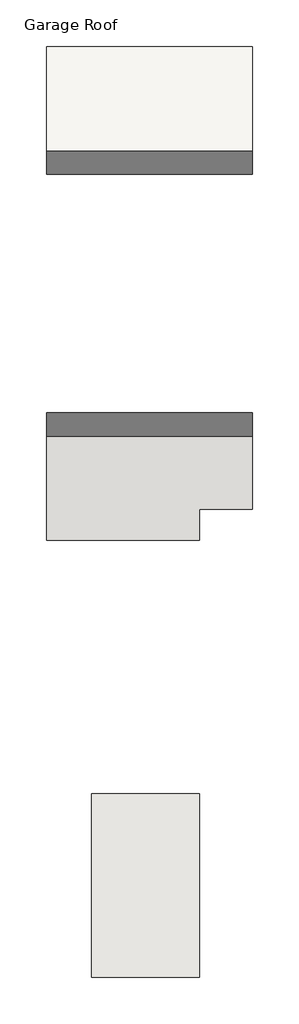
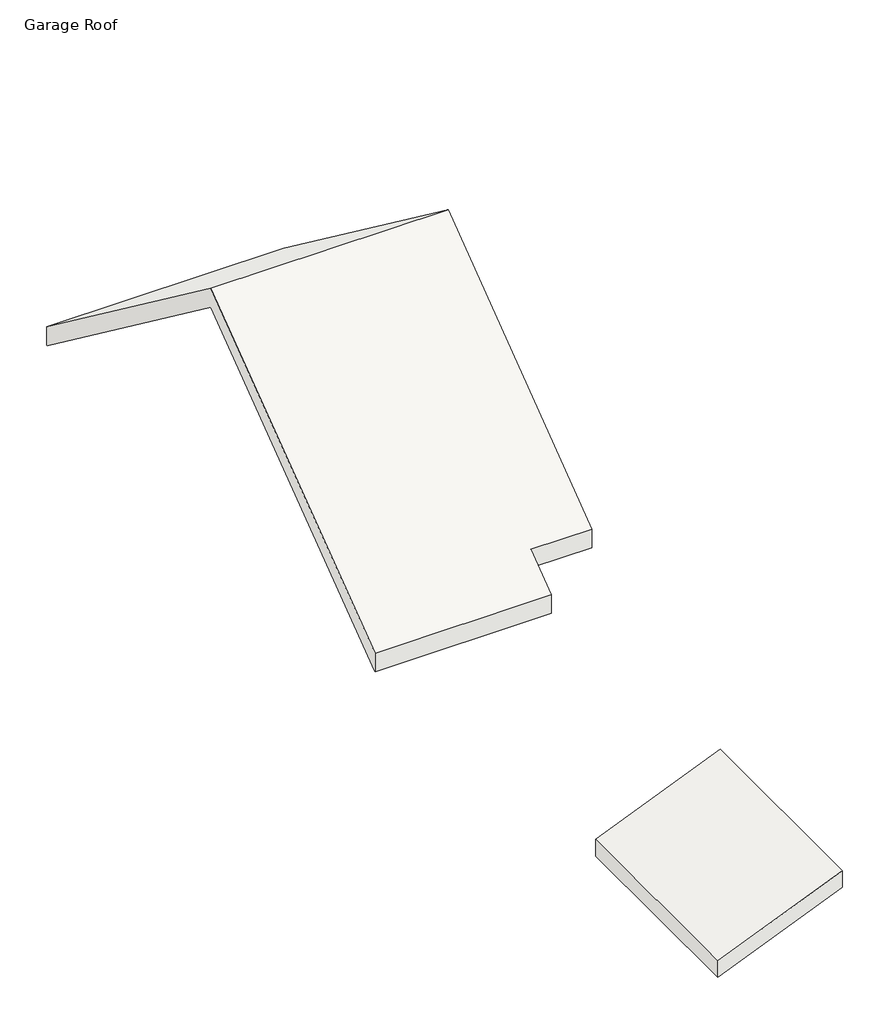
# One storey: 2 roofs.
"""IFC4 building model written with IfcOpenShell, lengths in millimetres."""

import ifcopenshell
import ifcopenshell.guid

model = None  # the IFC model being written
_history = None  # IfcOwnerHistory: only IFC2X3 demands one
_inside = {}  # id of a spatial element -> (the spatial element, [elements in it])
_under = {}  # id of a project, library or spatial element -> (it, [spatial elements below it])
_declared = {}  # id of a project -> (the project, [libraries it declares])
_typed = {}  # id of a type object -> (the type object, [elements of that type])
_made_of = {}  # id of a material, layer set ... -> (it, [elements and type objects made of it])


def new_model(schema):
    """Start an empty IFC model of exactly this schema.

    Asked for "IFC4X3", IfcOpenShell would pick the latest addendum, in which some entities
    have other attributes; the version numbers below select the first issue.
    IFC2X3 requires an IfcOwnerHistory on every rooted entity: one is made here for all.
    """
    global model, _history
    if schema == "IFC4X3":
        model = ifcopenshell.file(schema_version=(4, 3, 0, 0))
    else:
        model = ifcopenshell.file(schema=schema)
    _inside.clear()
    _under.clear()
    _declared.clear()
    _typed.clear()
    _made_of.clear()
    _history = None
    if model.schema == "IFC2X3":
        org = make("IfcOrganization", Name="unknown")
        user = make(
            "IfcPersonAndOrganization",
            ThePerson=make("IfcPerson", FamilyName="unknown"),
            TheOrganization=org,
        )
        app = make(
            "IfcApplication",
            ApplicationDeveloper=org,
            Version="unknown",
            ApplicationFullName="unknown",
            ApplicationIdentifier="unknown",
        )
        _history = make(
            "IfcOwnerHistory",
            OwningUser=user,
            OwningApplication=app,
            ChangeAction="ADDED",
            CreationDate=0,
        )
    return model


def make(cls, **values):
    """One entity of the class cls with the attributes given. An attribute that is None is left unset."""
    return model.create_entity(
        cls, **{name: value for name, value in values.items() if value is not None}
    )


def rooted(cls, **values):
    """An entity with a GlobalId (a new one), such as an element, a storey or a relation."""
    return make(cls, GlobalId=ifcopenshell.guid.new(), OwnerHistory=_history, **values)


def si_unit(unit_type, name, prefix=None):
    """IfcSIUnit, for example si_unit("LENGTHUNIT", "METRE", prefix="MILLI")."""
    return make("IfcSIUnit", UnitType=unit_type, Prefix=prefix, Name=name)


def assignment(units):
    """IfcUnitAssignment: the units of a project."""
    return None if units is None else make("IfcUnitAssignment", Units=units)


def point(xyz):
    """IfcCartesianPoint."""
    return None if xyz is None else make("IfcCartesianPoint", Coordinates=xyz)


def direction(xyz):
    """IfcDirection."""
    return None if xyz is None else make("IfcDirection", DirectionRatios=xyz)


def frame(location, z_axis=None, x_axis=None):
    """IfcAxis2Placement3D, a coordinate frame: its origin and axes. An axis left out is left unset."""
    return make(
        "IfcAxis2Placement3D",
        Location=point(location),
        Axis=direction(z_axis),
        RefDirection=direction(x_axis),
    )


def origin():
    """The frame at (0, 0, 0) with its axes left unset."""
    return frame((0.0, 0.0, 0.0))


def place(relative_to, where):
    """IfcLocalPlacement: puts the frame where relative to a parent placement (None: the world)."""
    return make(
        "IfcLocalPlacement", PlacementRelTo=relative_to, RelativePlacement=where
    )


def context(
    kind, dimensions, precision=None, world=None, true_north=None, identifier=None
):
    """IfcGeometricRepresentationContext, for example the 3D "Model" context."""
    return make(
        "IfcGeometricRepresentationContext",
        ContextIdentifier=identifier,
        ContextType=kind,
        CoordinateSpaceDimension=dimensions,
        Precision=precision,
        WorldCoordinateSystem=world,
        TrueNorth=true_north,
    )


def project(units=None, contexts=None):
    """IfcProject with its units and contexts."""
    return rooted(
        "IfcProject",
        Name="project",
        RepresentationContexts=contexts,
        UnitsInContext=assignment(units),
    )


def spatial(cls, under=None, at=None, **own):
    """A site, building, storey or space (cls), placed at a placement, below another one or the project."""
    s = rooted(cls, ObjectPlacement=at, **own)
    if under is not None:
        _under.setdefault(under.id(), (under, []))[1].append(s)
    return s


def polyline(points):
    """IfcPolyline through the points."""
    return make("IfcPolyline", Points=[point(p) for p in points])


def outline(outer, holes=None, kind="AREA"):
    """IfcArbitraryClosedProfileDef: a profile drawn as a closed curve; with holes, ...WithVoids."""
    if holes is None:
        return make("IfcArbitraryClosedProfileDef", ProfileType=kind, OuterCurve=outer)
    return make(
        "IfcArbitraryProfileDefWithVoids",
        ProfileType=kind,
        OuterCurve=outer,
        InnerCurves=holes,
    )


def extrude(swept, where, along, depth):
    """IfcExtrudedAreaSolid: the profile swept, set in the frame where, extruded along a direction by depth."""
    return make(
        "IfcExtrudedAreaSolid",
        SweptArea=swept,
        Position=where,
        ExtrudedDirection=direction(along),
        Depth=depth,
    )


def faces_of(points, faces, orient=None, outer=None):
    """IfcFace entities. A face is a list of loops; a loop is a list of indices into points, from 0.

    orient and outer hold one flag for each loop. By default every Orientation is true, the
    first loop of a face is its IfcFaceOuterBound and the others are IfcFaceBound.
    """
    made = []
    for i, loops in enumerate(faces):
        bounds = []
        for j, loop in enumerate(loops):
            is_outer = j == 0 if outer is None else outer[i][j]
            bounds.append(
                make(
                    "IfcFaceOuterBound" if is_outer else "IfcFaceBound",
                    Bound=make("IfcPolyLoop", Polygon=[points[k] for k in loop]),
                    Orientation=True if orient is None else orient[i][j],
                )
            )
        made.append(make("IfcFace", Bounds=bounds))
    return made


def faceted_brep(points, faces, orient=None, outer=None, voids=None):
    """IfcFacetedBrep: a solid bounded by flat faces; with voids (closed shells), ...WithVoids."""
    shared = [point(p) for p in points]
    hull = make("IfcClosedShell", CfsFaces=faces_of(shared, faces, orient, outer))
    if voids is None:
        return make("IfcFacetedBrep", Outer=hull)
    return make(
        "IfcFacetedBrepWithVoids",
        Outer=hull,
        Voids=[
            make(cls, CfsFaces=faces_of(shared, fs, o, b)) for cls, fs, o, b in voids
        ],
    )


def shape(context_of_items, identifier, shape_type, items):
    """IfcShapeRepresentation: the items that make up one representation, for example the "Body"."""
    return make(
        "IfcShapeRepresentation",
        ContextOfItems=context_of_items,
        RepresentationIdentifier=identifier,
        RepresentationType=shape_type,
        Items=items,
    )


def made_of(thing, what):
    """Note that an element or type object is made of a material, layer set ...; save() writes the relation."""
    if what is not None:
        _made_of.setdefault(what.id(), (what, []))[1].append(thing)
    return thing


def element(
    cls,
    number,
    at=None,
    inside=None,
    cuts=None,
    type_object=None,
    material=None,
    context=None,
    identifier="Body",
    shape_type=None,
    held_by="IfcProductDefinitionShape",
    body=None,
    shapes=None,
    **own,
):
    """One element of the class cls, such as IfcWall. Its Tag is "e" and its number.

    at: its placement. inside: the storey or other place that contains it. cuts: it is an
    opening in that element (IfcRelVoidsElement). A single representation is given by context,
    identifier, shape_type and body (its items); several are given by shapes. held_by: the class
    of the entity that holds the representations. save() writes the other relations.
    """
    e = rooted(cls, Tag="e%d" % number, ObjectPlacement=at, **own)
    if body is not None:
        shapes = [shape(context, identifier, shape_type, body)]
    if shapes is not None:
        e.Representation = make(held_by, Representations=shapes)
    if inside is not None:
        _inside.setdefault(inside.id(), (inside, []))[1].append(e)
    if cuts is not None:
        rooted(
            "IfcRelVoidsElement", RelatingBuildingElement=cuts, RelatedOpeningElement=e
        )
    if type_object is not None:
        _typed.setdefault(type_object.id(), (type_object, []))[1].append(e)
    return made_of(e, material)


def aggregate(whole, parts):
    """IfcRelAggregates: a whole, such as a stair, and the parts it consists of."""
    return rooted("IfcRelAggregates", RelatingObject=whole, RelatedObjects=parts)


def save(model, path):
    """Write the relations noted so far, then the file.

    IfcRelAggregates (storeys below a building ...), IfcRelContainedInSpatialStructure (elements
    in a storey), IfcRelDefinesByType, IfcRelAssociatesMaterial and IfcRelDeclares: one each for
    every whole, place, type object, material and project.
    """
    for whole, parts in _under.values():
        aggregate(whole, parts)
    for where, things in _inside.values():
        rooted(
            "IfcRelContainedInSpatialStructure",
            RelatedElements=things,
            RelatingStructure=where,
        )
    for kind, things in _typed.values():
        rooted("IfcRelDefinesByType", RelatedObjects=things, RelatingType=kind)
    for what, things in _made_of.values():
        rooted("IfcRelAssociatesMaterial", RelatedObjects=things, RelatingMaterial=what)
    for by, libraries in _declared.values():
        rooted("IfcRelDeclares", RelatingContext=by, RelatedDefinitions=libraries)
    model.write(path)


model = new_model("IFC4")

# Units and contexts
model_context = context("Model", 3, world=origin())
ifc_project = project(units=[si_unit("LENGTHUNIT", "METRE", prefix="MILLI")], contexts=[model_context])

# Site, building, storey
site = spatial("IfcSite", under=ifc_project)
building = spatial("IfcBuilding", under=site)
storey = spatial("IfcBuildingStorey", under=building, Name="Garage Roof", Elevation=3048.0)

# Roofs
placement = place(None, origin())
element("IfcRoof", 1, ObjectType="Wood Rafter Red 8\" - Asphalt Shingle 2", at=placement, inside=storey, context=model_context, shape_type="Brep", body=[
    faceted_brep([(-10732.4980992, 3666.375603, 3172.61875), (-10732.4980992, 3206.000603, 2827.3375), (-13018.4980992, 3206.000603, 2827.3375), (-13018.4980992, 6881.5922697, 5584.03125), (-9941.9230992, 6881.5922697, 5584.03125), (-9941.9230992, 3666.375603, 3172.61875), (-13018.4980992, 10557.1839363, 2827.3375), (-9941.9230992, 10557.1839363, 2827.3375), (-13018.4980992, 3195.4172697, 3081.3375), (-10732.4980992, 3195.4172697, 3081.3375), (-10732.4980992, 3655.7922697, 3426.61875), (-9941.9230992, 3655.7922697, 3426.61875), (-9941.9230992, 6881.5922697, 5845.96875), (-13018.4980992, 6881.5922697, 5845.96875), (-9941.9230992, 10567.7672697, 3081.3375), (-13018.4980992, 10567.7672697, 3081.3375), (-13018.4980992, 3195.4172697, 2827.3375), (-10732.4980992, 3195.4172697, 2827.3375), (-9941.9230992, 10567.7672697, 2827.3375), (-13018.4980992, 10567.7672697, 2827.3375), (-9941.9230992, 3655.7922697, 3172.61875), (-10732.4980992, 3655.7922697, 3172.61875)], [[[0, 1, 2, 3, 4, 5]], [[4, 3, 6, 7]], [[8, 9, 10, 11, 12, 13]], [[13, 12, 14, 15]], [[9, 8, 16, 17]], [[15, 14, 18, 19]], [[2, 1, 17, 16]], [[7, 6, 19, 18]], [[3, 2, 16, 8, 13, 15, 19, 6]], [[4, 7, 18, 14, 12, 11, 20, 5]], [[11, 10, 21, 20]], [[0, 21, 10, 9, 17, 1]], [[21, 0, 5, 20]]]),
])
element("IfcRoof", 2, ObjectType="Wood Rafter Red 8\" - Asphalt Shingle 2", at=placement, inside=storey, context=model_context, shape_type="SweptSolid", body=[
    extrude(outline(polyline([(3260.5927083, -10732.4980992), (2589.2125, -12343.8105992), (2362.2, -12343.8105992), (3033.5802083, -10732.4980992), (3260.5927083, -10732.4980992)])), frame((0.0, -3332.3827303, 0.0), z_axis=(0.0, 1.0, 0.0), x_axis=(0.0, 0.0, 1.0)), (0.0, 0.0, 1.0), 2743.2),
])

save(model, "model.ifc")
